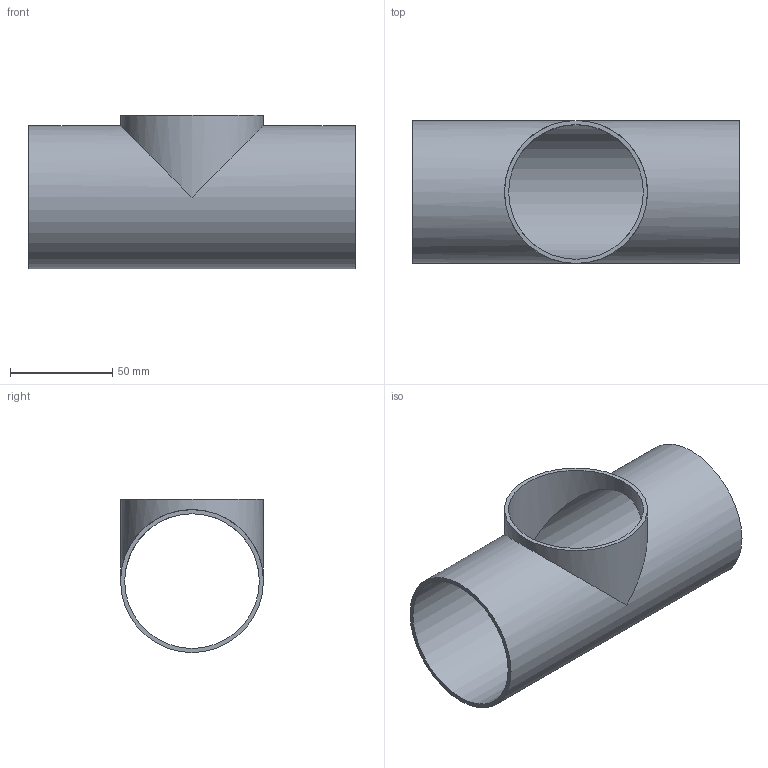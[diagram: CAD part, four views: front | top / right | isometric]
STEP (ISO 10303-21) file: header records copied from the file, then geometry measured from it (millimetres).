
FILE_DESCRIPTION(('FreeCAD Model'),'2;1');
FILE_NAME( '/home/martin/Documents/proyect/accesorios/stp/te_short_DN-65.step', '2018-01-07T08:12:15',('Author'),(''), 'Open CASCADE STEP processor 6.8','FreeCAD','Unknown');
FILE_SCHEMA(('AUTOMOTIVE_DESIGN_CC2 { 1 2 10303 214 -1 1 5 4 }'));
Length unit declared in the file: millimetre
Products named in the file (1): te_short_DN-65
Bounding box: 160 x 70 x 75 mm (x, y, z)
Volume: 66950 mm3; surface area: 68221.1 mm2
Topology: 1 solids, 1 shells, 7 faces, 16 edges, 12 vertices
Faces by surface type: cylinder 4, plane 3
Full cylindrical faces by diameter (mm): 66 x2, 70 x2
Entity records: 531 total; most frequent: CARTESIAN_POINT 172, DIRECTION 64, ORIENTED_EDGE 32, PCURVE 32, DEFINITIONAL_REPRESENTATION 32, AXIS2_PLACEMENT_3D 20, LINE 18, VECTOR 18
